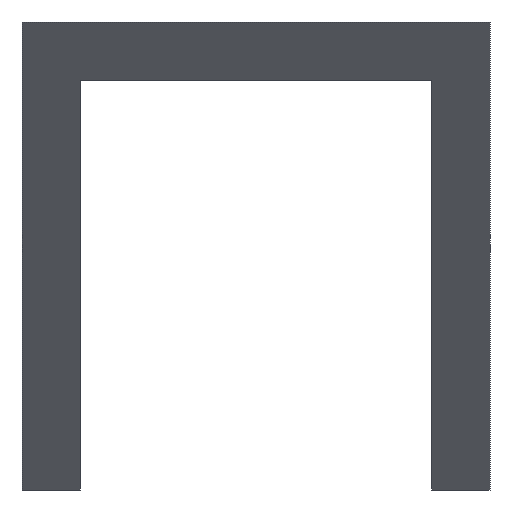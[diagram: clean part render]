
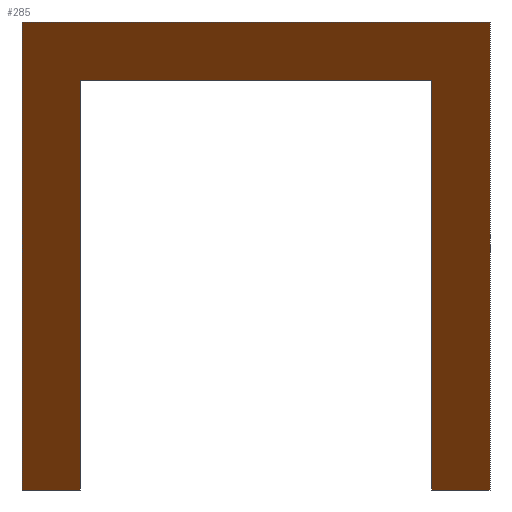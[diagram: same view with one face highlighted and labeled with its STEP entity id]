
A CAD part, front view. The second image highlights one B-rep face of the part: STEP entity #285.
In plain terms, the highlighted planar face has unit normal (0, -0.707, -0.707).
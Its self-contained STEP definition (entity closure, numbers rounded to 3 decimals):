
#94 = VERTEX_POINT('',#95);
#95 = CARTESIAN_POINT('',(582.775,443.432,599.068));
#103 = VERTEX_POINT('',#104);
#104 = CARTESIAN_POINT('',(582.775,421.207,621.293));
#110 = EDGE_CURVE('',#94,#103,#111,.T.);
#111 = LINE('',#112,#113);
#112 = CARTESIAN_POINT('',(582.775,707.754,334.746));
#113 = VECTOR('',#114,1.);
#114 = DIRECTION('',(0.,-0.707,0.707));
#285 = ADVANCED_FACE('',(#286),#343,.F.);
#286 = FACE_BOUND('',#287,.F.);
#287 = EDGE_LOOP('',(#288,#296,#297,#305,#313,#321,#329,#337));
#288 = ORIENTED_EDGE('',*,*,#289,.F.);
#289 = EDGE_CURVE('',#103,#290,#292,.T.);
#290 = VERTEX_POINT('',#291);
#291 = CARTESIAN_POINT('',(601.825,421.207,621.293));
#292 = LINE('',#293,#294);
#293 = CARTESIAN_POINT('',(578.6,421.207,621.293));
#294 = VECTOR('',#295,1.);
#295 = DIRECTION('',(1.,0.,0.));
#296 = ORIENTED_EDGE('',*,*,#110,.F.);
#297 = ORIENTED_EDGE('',*,*,#298,.F.);
#298 = EDGE_CURVE('',#299,#94,#301,.T.);
#299 = VERTEX_POINT('',#300);
#300 = CARTESIAN_POINT('',(579.6,443.432,599.068));
#301 = LINE('',#302,#303);
#302 = CARTESIAN_POINT('',(578.6,443.432,599.068));
#303 = VECTOR('',#304,1.);
#304 = DIRECTION('',(1.,0.,0.));
#305 = ORIENTED_EDGE('',*,*,#306,.F.);
#306 = EDGE_CURVE('',#307,#299,#309,.T.);
#307 = VERTEX_POINT('',#308);
#308 = CARTESIAN_POINT('',(579.6,418.032,624.468));
#309 = LINE('',#310,#311);
#310 = CARTESIAN_POINT('',(579.6,707.383,335.117));
#311 = VECTOR('',#312,1.);
#312 = DIRECTION('',(0.,0.707,-0.707));
#313 = ORIENTED_EDGE('',*,*,#314,.T.);
#314 = EDGE_CURVE('',#307,#315,#317,.T.);
#315 = VERTEX_POINT('',#316);
#316 = CARTESIAN_POINT('',(605.,418.032,624.468));
#317 = LINE('',#318,#319);
#318 = CARTESIAN_POINT('',(579.6,418.032,624.468));
#319 = VECTOR('',#320,1.);
#320 = DIRECTION('',(1.,0.,0.));
#321 = ORIENTED_EDGE('',*,*,#322,.F.);
#322 = EDGE_CURVE('',#323,#315,#325,.T.);
#323 = VERTEX_POINT('',#324);
#324 = CARTESIAN_POINT('',(605.,443.432,599.068));
#325 = LINE('',#326,#327);
#326 = CARTESIAN_POINT('',(605.,707.117,335.383));
#327 = VECTOR('',#328,1.);
#328 = DIRECTION('',(0.,-0.707,0.707));
#329 = ORIENTED_EDGE('',*,*,#330,.F.);
#330 = EDGE_CURVE('',#331,#323,#333,.T.);
#331 = VERTEX_POINT('',#332);
#332 = CARTESIAN_POINT('',(601.825,443.432,599.068));
#333 = LINE('',#334,#335);
#334 = CARTESIAN_POINT('',(600.825,443.432,599.068));
#335 = VECTOR('',#336,1.);
#336 = DIRECTION('',(1.,0.,0.));
#337 = ORIENTED_EDGE('',*,*,#338,.F.);
#338 = EDGE_CURVE('',#290,#331,#339,.T.);
#339 = LINE('',#340,#341);
#340 = CARTESIAN_POINT('',(601.825,707.631,334.869));
#341 = VECTOR('',#342,1.);
#342 = DIRECTION('',(0.,0.707,-0.707));
#343 = PLANE('',#344);
#344 = AXIS2_PLACEMENT_3D('',#345,#346,#347);
#345 = CARTESIAN_POINT('',(570.,417.032,625.468));
#346 = DIRECTION('',(0.,0.707,0.707));
#347 = DIRECTION('',(0.,0.707,-0.707));
